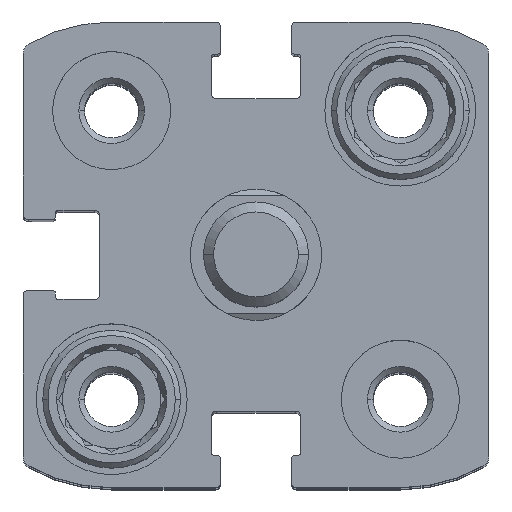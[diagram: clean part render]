
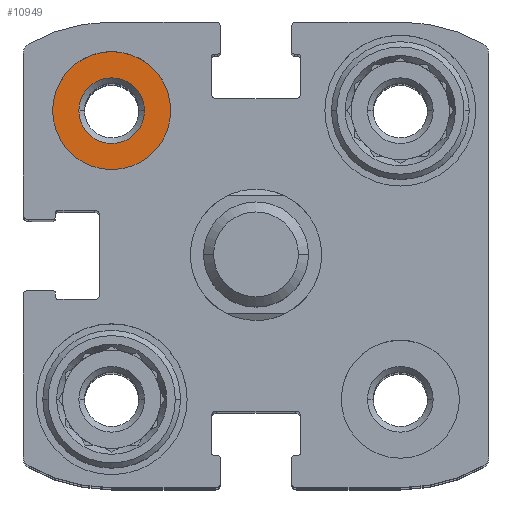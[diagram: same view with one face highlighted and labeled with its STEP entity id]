
A CAD part, top view. The second image highlights one B-rep face of the part: STEP entity #10949.
In plain terms, the highlighted planar face has unit normal (0, 0, 1).
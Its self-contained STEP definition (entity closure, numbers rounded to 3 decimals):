
#17 = CARTESIAN_POINT ( 'NONE',  ( -11., 11., -4.8 ) ) ;
#603 = DIRECTION ( 'NONE',  ( -1., 0., 0. ) ) ;
#611 = VERTEX_POINT ( 'NONE', #1596 ) ;
#1039 = DIRECTION ( 'NONE',  ( -1., 0., 0. ) ) ;
#1596 = CARTESIAN_POINT ( 'NONE',  ( -8.5, 11., -4.8 ) ) ;
#2472 = VERTEX_POINT ( 'NONE', #11788 ) ;
#2486 = CIRCLE ( 'NONE', #9007, 4.5 ) ;
#2711 = CARTESIAN_POINT ( 'NONE',  ( -13.5, 11., -4.8 ) ) ;
#2741 = PLANE ( 'NONE',  #13261 ) ;
#2813 = VERTEX_POINT ( 'NONE', #6596 ) ;
#3079 = DIRECTION ( 'NONE',  ( 0., 0., -1. ) ) ;
#3428 = CIRCLE ( 'NONE', #11019, 2.5 ) ;
#3870 = ORIENTED_EDGE ( 'NONE', *, *, #8036, .F. ) ;
#3990 = CARTESIAN_POINT ( 'NONE',  ( -11., 11., -4.8 ) ) ;
#4349 = EDGE_CURVE ( 'NONE', #611, #7371, #3428, .T. ) ;
#4425 = ORIENTED_EDGE ( 'NONE', *, *, #11786, .T. ) ;
#5245 = DIRECTION ( 'NONE',  ( 0., 0., -1. ) ) ;
#5732 = FACE_OUTER_BOUND ( 'NONE', #10252, .T. ) ;
#5864 = CARTESIAN_POINT ( 'NONE',  ( -11., 15.5, -4.8 ) ) ;
#6276 = CIRCLE ( 'NONE', #10619, 4.5 ) ;
#6596 = CARTESIAN_POINT ( 'NONE',  ( -6.5, 11., -4.8 ) ) ;
#7371 = VERTEX_POINT ( 'NONE', #2711 ) ;
#7616 = DIRECTION ( 'NONE',  ( 1., 0., 0. ) ) ;
#8036 = EDGE_CURVE ( 'NONE', #2472, #2813, #6276, .T. ) ;
#8059 = DIRECTION ( 'NONE',  ( 0., 0., -1. ) ) ;
#8129 = DIRECTION ( 'NONE',  ( -1., 0., 0. ) ) ;
#8652 = DIRECTION ( 'NONE',  ( 0., 0., 1. ) ) ;
#9007 = AXIS2_PLACEMENT_3D ( 'NONE', #3990, #13154, #603 ) ;
#9083 = ORIENTED_EDGE ( 'NONE', *, *, #10622, .F. ) ;
#9580 = ORIENTED_EDGE ( 'NONE', *, *, #4349, .T. ) ;
#9871 = FACE_BOUND ( 'NONE', #12515, .T. ) ;
#10252 = EDGE_LOOP ( 'NONE', ( #3870, #9083 ) ) ;
#10490 = CARTESIAN_POINT ( 'NONE',  ( -11., 11., -4.8 ) ) ;
#10619 = AXIS2_PLACEMENT_3D ( 'NONE', #10490, #3079, #1039 ) ;
#10622 = EDGE_CURVE ( 'NONE', #2813, #2472, #2486, .T. ) ;
#10913 = CIRCLE ( 'NONE', #12200, 2.5 ) ;
#10949 = ADVANCED_FACE ( 'NONE', ( #5732, #9871 ), #2741, .T. ) ;
#11019 = AXIS2_PLACEMENT_3D ( 'NONE', #17, #5245, #12509 ) ;
#11057 = CARTESIAN_POINT ( 'NONE',  ( -11., 11., -4.8 ) ) ;
#11786 = EDGE_CURVE ( 'NONE', #7371, #611, #10913, .T. ) ;
#11788 = CARTESIAN_POINT ( 'NONE',  ( -15.5, 11., -4.8 ) ) ;
#12200 = AXIS2_PLACEMENT_3D ( 'NONE', #11057, #8059, #8129 ) ;
#12509 = DIRECTION ( 'NONE',  ( -1., 0., 0. ) ) ;
#12515 = EDGE_LOOP ( 'NONE', ( #9580, #4425 ) ) ;
#13154 = DIRECTION ( 'NONE',  ( 0., 0., -1. ) ) ;
#13261 = AXIS2_PLACEMENT_3D ( 'NONE', #5864, #8652, #7616 ) ;
